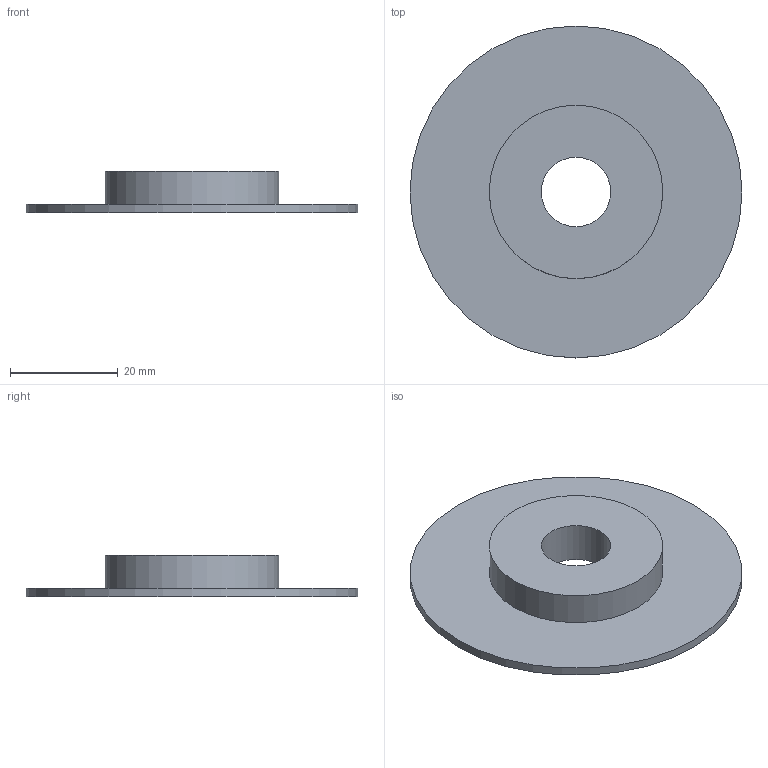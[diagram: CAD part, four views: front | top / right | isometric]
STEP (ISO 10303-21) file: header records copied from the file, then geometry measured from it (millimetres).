
FILE_DESCRIPTION(('Mechanical CAD reference from nasji.com'),'2;1');
FILE_NAME('NASJI.step','',(''),(''),'','NASJI distribution','');
FILE_SCHEMA(('AUTOMOTIVE_DESIGN { 1 0 10303 214 1 1 1 1 }'));
Length unit declared in the file: millimetre
Products named in the file (1): Open CASCADE STEP translator 7.8 24
Bounding box: 61.7 x 61.7 x 7.7 mm (x, y, z)
Volume: 8757.3 mm3; surface area: 6958.5 mm2
Topology: 1 solids, 1 shells, 6 faces, 9 edges, 6 vertices
Faces by surface type: plane 3, cylinder 3
Full cylindrical faces by diameter (mm): 12.9 x1, 32.24 x1, 61.7 x1
Entity records: 270 total; most frequent: DIRECTION 47, CARTESIAN_POINT 40, ORIENTED_EDGE 18, PCURVE 18, DEFINITIONAL_REPRESENTATION 18, LINE 15, VECTOR 15, AXIS2_PLACEMENT_3D 13
